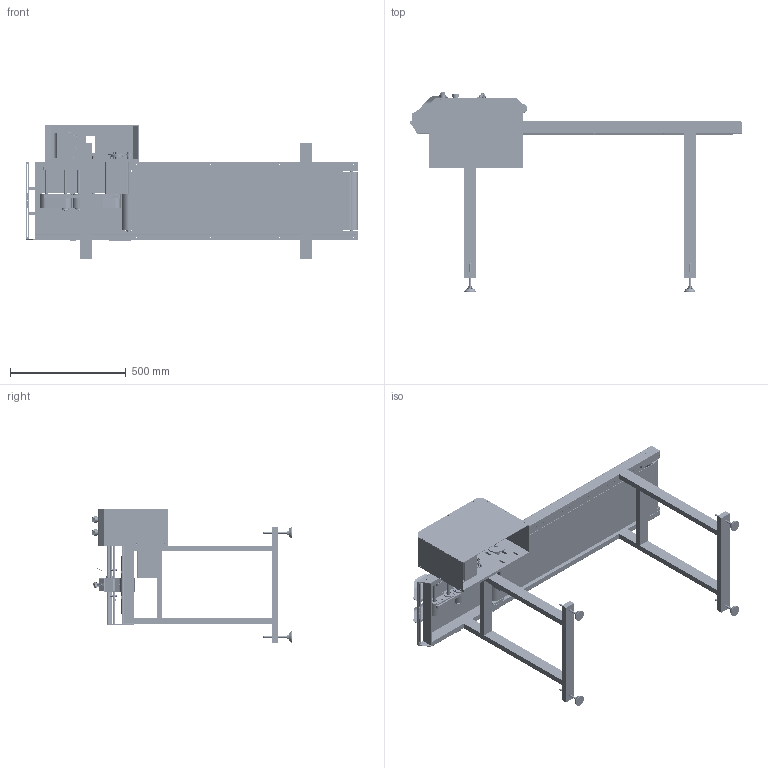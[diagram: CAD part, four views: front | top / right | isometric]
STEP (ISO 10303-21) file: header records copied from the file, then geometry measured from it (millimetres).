
FILE_DESCRIPTION(/* description */ (''),/* implementation_level */ '2;1');
FILE_NAME(/* name */ 'beltconveyor_a110_w250_l1400.stp',/* time_stamp */ '2025-01-08T22:23:43+08:00',/* author */ (''),/* organization */ (''),/* preprocessor_version */ 'ST-DEVELOPER v16.7',/* originating_system */ 'SIEMENS PLM Software NX 12.0',/* authorisation */ '');
FILE_SCHEMA (('AUTOMOTIVE_DESIGN { 1 0 10303 214 3 1 1 1 }'));
Products named in the file (72): 绿色硅胶板; 带螺纹杆3; 硅胶板固定板; 压板; 控制箱壳-盖板-不锈钢; 控制箱壳-不锈钢; 控制箱壳-靠板; 结构2小轴; 固定壳2; 固定壳; 带螺纹杆2; 拉簧; hexagon socket set screw cone point_jis(JIS B 1177 Cone point M3 x 8 
--N); hexagon socket button head screw_jis(JIS B 1174 M6 x 10 (10) --N); NBMST6螺帽; 小滚; 不锈钢钢丝94876; 平头内六角; 零件3; 零件1; 零件2; 轴承固定板; 电木板20新做; 镜向侧板; 橡胶皮带1; POM滚; 镜向镜向侧板; 立板; 主动动滚POM; 不锈钢方管-1; 链轮-2; 从动轴 - 2; POM小轴; 链轮-3; 橡胶皮带2; 主动轴固定块; 镜向立板; 启动按钮（红）; 皮带; NBMST6_32_25_B ...
Assembly tree (86 placements, depth 3):
  beltconveyor_a110_w250_l1400
    地脚8  x4
    支撑板-2
    启动按钮（绿）
    从动滚POM -3  x2
    从动滚POM
    压条
    台面板
    带螺纹杆4
    电源开挂  x2
    从动轴-1 (2)
    链轮-1
    装配体2
      零件2
      零件1
      零件3
    刻度板拉杆
    轴承固定板-1
    从动滚POM-2
    主动轴固定块-2
    前主动轴连接
    支撑板
    不锈钢钢丝  x2
      平头内六角
      不锈钢钢丝94876
    从动轴固定块  x2
    从动轴  x2
    带螺纹杆
    不锈钢方管-3_默认_按加工_  x2
    140-250W电机
    不锈钢方管-2
    变频器
    主动滚筒-1
    刻度板
    NBMST6_32_25_B
    皮带
    启动按钮（红）
    镜向立板
    主动轴固定块
    结构2
      小滚
      NBMST6螺帽
      hexagon socket button head screw_jis(JIS B 1174 M6 x 10 (10) --N)  x3
      hexagon socket set screw cone point_jis(JIS B 1177 Cone point M3 x 8 
--N)
      拉簧
      带螺纹杆2
      固定壳
      NBMST6_32_25_B
      固定壳2
      结构2小轴
    橡胶皮带2
    链轮-3
    POM小轴
    从动轴 - 2  x2
    链轮-2
    不锈钢方管-1
    主动动滚POM
    控制箱
      控制箱壳-靠板
      控制箱壳-不锈钢
Bounding box: 1434.4 x 865 x 577 mm (x, y, z)
Volume: 15850025.1 mm3; surface area: 5381728 mm2
Topology: 129 solids, 137 shells, 6072 faces, 14053 edges, 9139 vertices
Faces by surface type: cylinder 2842, plane 2513, extrusion 369, cone 159, bspline 83, sphere 57, torus 49
Entity records: 173627 total; most frequent: CARTESIAN_POINT 40838, DIRECTION 27735, ORIENTED_EDGE 25786, EDGE_CURVE 12893, AXIS2_PLACEMENT_3D 10683, VERTEX_POINT 8468, EDGE_LOOP 7087, VECTOR 6369
